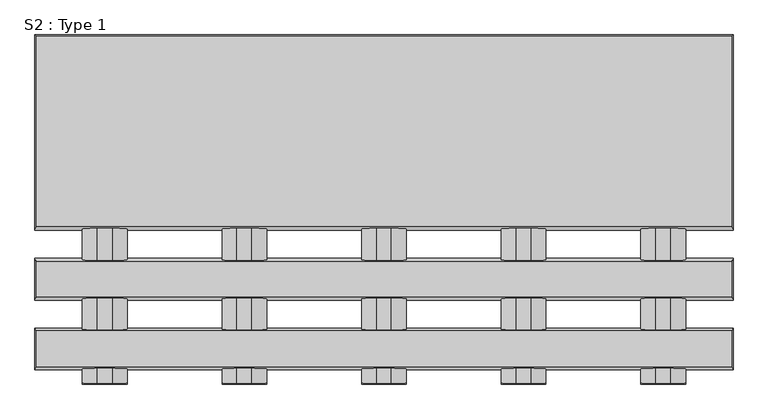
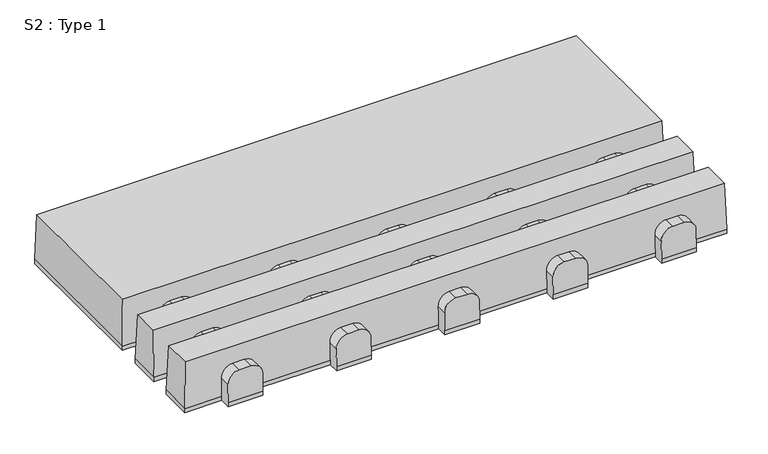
"""IFC4 building model written with IfcOpenShell, lengths in millimetres: proxy geometry, S2 : Type 1."""

from ifc_helpers import new_model, si_unit, frame, origin, place, context, project, spatial, ellipse_curve, source, transform, mapped, element, save
from ifc_brep_helpers import plane_surface, cylinder_surface, advanced_brep


def s2_type_1_b20050cd(model_context):
    return source(origin(), model_context, "Body", "AdvancedBrep", [
        advanced_brep(
        [(85.0, 0.0, 0.0), (165.0, 0.0, 0.0), (165.0, 0.0, 10.0), (85.0, 0.0, 10.0), (1250.0, 625.0, 0.0), (0.0, 625.0, 0.0), (0.0, 625.0, 10.0), (1250.0, 625.0, 10.0), (165.0, 25.25, 0.0), (165.0, 25.25, 10.0), (165.0, 27.1056048, 53.33), (165.0, 1.08325, 53.33), (165.0, 99.75, 10.0), (165.0, 99.75, 0.0), (165.0, 150.25, 0.0), (165.0, 150.25, 10.0), (165.0, 152.6134545, 53.33), (165.0, 97.8943952, 53.33), (165.0, 224.75, 10.0), (165.0, 224.75, 0.0), (165.0, 275.25, 0.0), (165.0, 275.25, 10.0), (165.0, 277.6134545, 53.33), (165.0, 222.3865455, 53.33), (111.67, 96.7522539, 80.0), (138.33, 96.7522539, 80.0), (138.33, 154.0681818, 80.0), (111.67, 154.0681818, 80.0), (138.33, 28.2477461, 80.0), (111.67, 28.2477461, 80.0), (111.67, 1.75, 80.0), (138.33, 1.75, 80.0), (111.67, 220.9318182, 80.0), (138.33, 220.9318182, 80.0), (138.33, 279.0681818, 80.0), (111.67, 279.0681818, 80.0), (85.0, 25.25, 0.0), (85.0, 1.08325, 53.33), (85.0, 27.1056048, 53.33), (85.0, 25.25, 10.0), (85.0, 99.75, 0.0), (85.0, 99.75, 10.0), (85.0, 97.8943952, 53.33), (85.0, 152.6134545, 53.33), (85.0, 150.25, 10.0), (85.0, 150.25, 0.0), (85.0, 224.75, 0.0), (85.0, 224.75, 10.0), (85.0, 222.3865455, 53.33), (85.0, 277.6134545, 53.33), (85.0, 275.25, 10.0), (85.0, 275.25, 0.0), (0.0, 25.25, 0.0), (0.0, 99.75, 0.0), (0.0, 150.25, 0.0), (0.0, 224.75, 0.0), (0.0, 275.25, 0.0), (1250.0, 275.25, 0.0), (1165.0, 275.25, 0.0), (1165.0, 224.75, 0.0), (1250.0, 224.75, 0.0), (1250.0, 150.25, 0.0), (1165.0, 150.25, 0.0), (1165.0, 99.75, 0.0), (1250.0, 99.75, 0.0), (1250.0, 25.25, 0.0), (1165.0, 25.25, 0.0), (1165.0, 0.0, 0.0), (1085.0, 0.0, 0.0), (1085.0, 25.25, 0.0), (915.0, 25.25, 0.0), (915.0, 0.0, 0.0), (835.0, 0.0, 0.0), (835.0, 25.25, 0.0), (665.0, 25.25, 0.0), (665.0, 0.0, 0.0), (585.0, 0.0, 0.0), (585.0, 25.25, 0.0), (415.0, 25.25, 0.0), (415.0, 0.0, 0.0), (335.0, 0.0, 0.0), (335.0, 25.25, 0.0), (335.0, 99.75, 0.0), (335.0, 150.25, 0.0), (335.0, 224.75, 0.0), (335.0, 275.25, 0.0), (415.0, 150.25, 0.0), (415.0, 99.75, 0.0), (585.0, 99.75, 0.0), (585.0, 150.25, 0.0), (415.0, 275.25, 0.0), (415.0, 224.75, 0.0), (585.0, 224.75, 0.0), (585.0, 275.25, 0.0), (665.0, 150.25, 0.0), (665.0, 99.75, 0.0), (835.0, 99.75, 0.0), (835.0, 150.25, 0.0), (665.0, 275.25, 0.0), (665.0, 224.75, 0.0), (835.0, 224.75, 0.0), (835.0, 275.25, 0.0), (915.0, 150.25, 0.0), (915.0, 99.75, 0.0), (1085.0, 99.75, 0.0), (1085.0, 150.25, 0.0), (915.0, 275.25, 0.0), (915.0, 224.75, 0.0), (1085.0, 224.75, 0.0), (1085.0, 275.25, 0.0), (1250.0, 99.75, 10.0), (1250.0, 25.25, 10.0), (0.0, 25.25, 10.0), (0.0, 99.75, 10.0), (335.0, 99.75, 10.0), (1165.0, 99.75, 10.0), (415.0, 99.75, 10.0), (585.0, 99.75, 10.0), (665.0, 99.75, 10.0), (835.0, 99.75, 10.0), (915.0, 99.75, 10.0), (1085.0, 99.75, 10.0), (2.75, 95.0392562, 120.0), (1247.25, 95.0392562, 120.0), (1165.0, 97.8943952, 53.33), (1138.33, 96.7522539, 80.0), (1111.67, 96.7522539, 80.0), (1085.0, 97.8943952, 53.33), (915.0, 97.8943952, 53.33), (888.33, 96.7522539, 80.0), (861.67, 96.7522539, 80.0), (835.0, 97.8943952, 53.33), (665.0, 97.8943952, 53.33), (638.33, 96.7522539, 80.0), (611.67, 96.7522539, 80.0), (585.0, 97.8943952, 53.33), (415.0, 97.8943952, 53.33), (388.33, 96.7522539, 80.0), (361.67, 96.7522539, 80.0), (335.0, 97.8943952, 53.33), (2.75, 29.9607438, 120.0), (1247.25, 29.9607438, 120.0), (335.0, 25.25, 10.0), (335.0, 27.1056048, 53.33), (361.67, 28.2477461, 80.0), (388.33, 28.2477461, 80.0), (415.0, 27.1056048, 53.33), (415.0, 25.25, 10.0), (585.0, 25.25, 10.0), (585.0, 27.1056048, 53.33), (611.67, 28.2477461, 80.0), (638.33, 28.2477461, 80.0), (665.0, 27.1056048, 53.33), (665.0, 25.25, 10.0), (835.0, 25.25, 10.0), (835.0, 27.1056048, 53.33), (861.67, 28.2477461, 80.0), (888.33, 28.2477461, 80.0), (915.0, 27.1056048, 53.33), (915.0, 25.25, 10.0), (1085.0, 25.25, 10.0), (1085.0, 27.1056048, 53.33), (1111.67, 28.2477461, 80.0), (1138.33, 28.2477461, 80.0), (1165.0, 27.1056048, 53.33), (1165.0, 25.25, 10.0), (1250.0, 224.75, 10.0), (1250.0, 150.25, 10.0), (0.0, 150.25, 10.0), (0.0, 224.75, 10.0), (335.0, 224.75, 10.0), (1165.0, 224.75, 10.0), (415.0, 224.75, 10.0), (585.0, 224.75, 10.0), (665.0, 224.75, 10.0), (835.0, 224.75, 10.0), (915.0, 224.75, 10.0), (1085.0, 224.75, 10.0), (2.75, 218.75, 120.0), (1247.25, 218.75, 120.0), (1165.0, 222.3865455, 53.33), (1138.33, 220.9318182, 80.0), (1111.67, 220.9318182, 80.0), (1085.0, 222.3865455, 53.33), (915.0, 222.3865455, 53.33), (888.33, 220.9318182, 80.0), (861.67, 220.9318182, 80.0), (835.0, 222.3865455, 53.33), (665.0, 222.3865455, 53.33), (638.33, 220.9318182, 80.0), (611.67, 220.9318182, 80.0), (585.0, 222.3865455, 53.33), (415.0, 222.3865455, 53.33), (388.33, 220.9318182, 80.0), (361.67, 220.9318182, 80.0), (335.0, 222.3865455, 53.33), (2.75, 156.25, 120.0), (1247.25, 156.25, 120.0), (335.0, 150.25, 10.0), (335.0, 152.6134545, 53.33), (361.67, 154.0681818, 80.0), (388.33, 154.0681818, 80.0), (415.0, 152.6134545, 53.33), (415.0, 150.25, 10.0), (585.0, 150.25, 10.0), (585.0, 152.6134545, 53.33), (611.67, 154.0681818, 80.0), (638.33, 154.0681818, 80.0), (665.0, 152.6134545, 53.33), (665.0, 150.25, 10.0), (835.0, 150.25, 10.0), (835.0, 152.6134545, 53.33), (861.67, 154.0681818, 80.0), (888.33, 154.0681818, 80.0), (915.0, 152.6134545, 53.33), (915.0, 150.25, 10.0), (1085.0, 150.25, 10.0), (1085.0, 152.6134545, 53.33), (1111.67, 154.0681818, 80.0), (1138.33, 154.0681818, 80.0), (1165.0, 152.6134545, 53.33), (1165.0, 150.25, 10.0), (1250.0, 275.25, 10.0), (0.0, 275.25, 10.0), (2.75, 281.25, 120.0), (1247.25, 281.25, 120.0), (1247.25, 622.25, 120.0), (2.75, 622.25, 120.0), (335.0, 275.25, 10.0), (335.0, 277.6134545, 53.33), (361.67, 279.0681818, 80.0), (388.33, 279.0681818, 80.0), (415.0, 277.6134545, 53.33), (415.0, 275.25, 10.0), (585.0, 275.25, 10.0), (585.0, 277.6134545, 53.33), (611.67, 279.0681818, 80.0), (638.33, 279.0681818, 80.0), (665.0, 277.6134545, 53.33), (665.0, 275.25, 10.0), (835.0, 275.25, 10.0), (835.0, 277.6134545, 53.33), (861.67, 279.0681818, 80.0), (888.33, 279.0681818, 80.0), (915.0, 277.6134545, 53.33), (915.0, 275.25, 10.0), (1085.0, 275.25, 10.0), (1085.0, 277.6134545, 53.33), (1111.67, 279.0681818, 80.0), (1138.33, 279.0681818, 80.0), (1165.0, 277.6134545, 53.33), (1165.0, 275.25, 10.0), (415.0, 0.0, 10.0), (335.0, 0.0, 10.0), (665.0, 0.0, 10.0), (585.0, 0.0, 10.0), (915.0, 0.0, 10.0), (835.0, 0.0, 10.0), (1165.0, 0.0, 10.0), (1085.0, 0.0, 10.0), (415.0, 1.08325, 53.33), (388.33, 1.75, 80.0), (361.67, 1.75, 80.0), (335.0, 1.08325, 53.33), (665.0, 1.08325, 53.33), (638.33, 1.75, 80.0), (611.67, 1.75, 80.0), (585.0, 1.08325, 53.33), (915.0, 1.08325, 53.33), (888.33, 1.75, 80.0), (861.67, 1.75, 80.0), (835.0, 1.08325, 53.33), (1165.0, 1.08325, 53.33), (1138.33, 1.75, 80.0), (1111.67, 1.75, 80.0), (1085.0, 1.08325, 53.33)],
        [
            (0, 1),
            (1, 2),
            (2, 3),
            (3, 0),
            (4, 5),
            (5, 6),
            (6, 7),
            (7, 4),
            (1, 8),
            (8, 9),
            (9, 10),
            (10, 11),
            (11, 2),
            (12, 13),
            (13, 14),
            (14, 15),
            (15, 16),
            (16, 17),
            (17, 12),
            (18, 19),
            (19, 20),
            (20, 21),
            (21, 22),
            (22, 23),
            (23, 18),
            (24, 25),
            (25, 26),
            (26, 27),
            (27, 24),
            (28, 29),
            (29, 30),
            (30, 31),
            (31, 28),
            (32, 33),
            (33, 34),
            (34, 35),
            (35, 32),
            (36, 0),
            (3, 37),
            (37, 38),
            (38, 39),
            (39, 36),
            (40, 41),
            (41, 42),
            (42, 43),
            (43, 44),
            (44, 45),
            (45, 40),
            (46, 47),
            (47, 48),
            (48, 49),
            (49, 50),
            (50, 51),
            (51, 46),
            (36, 52),
            (52, 53),
            (53, 40),
            (45, 54),
            (54, 55),
            (55, 46),
            (51, 56),
            (56, 5),
            (4, 57),
            (57, 58),
            (58, 59),
            (59, 60),
            (60, 61),
            (61, 62),
            (62, 63),
            (63, 64),
            (64, 65),
            (65, 66),
            (66, 67),
            (67, 68),
            (68, 69),
            (69, 70),
            (70, 71),
            (71, 72),
            (72, 73),
            (73, 74),
            (74, 75),
            (75, 76),
            (76, 77),
            (77, 78),
            (78, 79),
            (79, 80),
            (80, 81),
            (81, 8),
            (13, 82),
            (82, 83),
            (83, 14),
            (19, 84),
            (84, 85),
            (85, 20),
            (86, 87),
            (87, 88),
            (88, 89),
            (89, 86),
            (90, 91),
            (91, 92),
            (92, 93),
            (93, 90),
            (94, 95),
            (95, 96),
            (96, 97),
            (97, 94),
            (98, 99),
            (99, 100),
            (100, 101),
            (101, 98),
            (102, 103),
            (103, 104),
            (104, 105),
            (105, 102),
            (106, 107),
            (107, 108),
            (108, 109),
            (109, 106),
            (64, 110),
            (110, 111),
            (111, 65),
            (52, 112),
            (112, 113),
            (113, 53),
            (12, 114),
            (114, 82),
            (63, 115),
            (115, 110),
            (113, 41),
            (87, 116),
            (116, 117),
            (117, 88),
            (95, 118),
            (118, 119),
            (119, 96),
            (103, 120),
            (120, 121),
            (121, 104),
            (113, 122),
            (122, 123),
            (123, 110),
            (115, 124),
            (124, 125, ellipse_curve(frame((1138.33, 97.8943952, 53.33), z_axis=(0.0, -0.9990842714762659, -0.042785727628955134), x_axis=(0.0, -0.04278572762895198, 0.999084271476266)), 26.6944449, 26.67)),
            (125, 126),
            (126, 127, ellipse_curve(frame((1111.67, 97.8943952, 53.33), z_axis=(0.0, -0.9990842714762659, -0.042785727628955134), x_axis=(0.0, -0.04278572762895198, 0.999084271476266)), 26.6944449, 26.67)),
            (127, 121),
            (120, 128),
            (128, 129, ellipse_curve(frame((888.33, 97.8943952, 53.33), z_axis=(0.0, -0.9990842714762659, -0.042785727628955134), x_axis=(0.0, -0.04278572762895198, 0.999084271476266)), 26.6944449, 26.67)),
            (129, 130),
            (130, 131, ellipse_curve(frame((861.67, 97.8943952, 53.33), z_axis=(0.0, -0.9990842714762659, -0.042785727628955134), x_axis=(0.0, -0.04278572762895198, 0.999084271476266)), 26.6944449, 26.67)),
            (131, 119),
            (118, 132),
            (132, 133, ellipse_curve(frame((638.33, 97.8943952, 53.33), z_axis=(0.0, -0.9990842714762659, -0.042785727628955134), x_axis=(0.0, -0.04278572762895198, 0.999084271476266)), 26.6944449, 26.67)),
            (133, 134),
            (134, 135, ellipse_curve(frame((611.67, 97.8943952, 53.33), z_axis=(0.0, -0.9990842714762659, -0.042785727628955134), x_axis=(0.0, -0.04278572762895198, 0.999084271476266)), 26.6944449, 26.67)),
            (135, 117),
            (116, 136),
            (136, 137, ellipse_curve(frame((388.33, 97.8943952, 53.33), z_axis=(0.0, -0.9990842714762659, -0.042785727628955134), x_axis=(0.0, -0.04278572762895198, 0.999084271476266)), 26.6944449, 26.67)),
            (137, 138),
            (138, 139, ellipse_curve(frame((361.67, 97.8943952, 53.33), z_axis=(0.0, -0.9990842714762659, -0.042785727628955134), x_axis=(0.0, -0.04278572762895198, 0.999084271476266)), 26.6944449, 26.67)),
            (139, 114),
            (17, 25, ellipse_curve(frame((138.33, 97.8943952, 53.33), z_axis=(0.0, -0.9990842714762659, -0.042785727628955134), x_axis=(0.0, -0.04278572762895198, 0.999084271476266)), 26.6944449, 26.67)),
            (24, 42, ellipse_curve(frame((111.67, 97.8943952, 53.33), z_axis=(0.0, -0.9990842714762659, -0.042785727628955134), x_axis=(0.0, -0.04278572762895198, 0.999084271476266)), 26.6944449, 26.67)),
            (122, 140),
            (140, 141),
            (141, 123),
            (112, 39),
            (38, 29, ellipse_curve(frame((111.67, 27.1056048, 53.33), z_axis=(0.0, 0.9990842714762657, -0.042785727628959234), x_axis=(0.0, -0.042785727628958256, -0.9990842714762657)), 26.6944449, 26.67)),
            (28, 10, ellipse_curve(frame((138.33, 27.1056048, 53.33), z_axis=(0.0, 0.9990842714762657, -0.042785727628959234), x_axis=(0.0, -0.042785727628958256, -0.9990842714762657)), 26.6944449, 26.67)),
            (9, 142),
            (142, 143),
            (143, 144, ellipse_curve(frame((361.67, 27.1056048, 53.33), z_axis=(0.0, 0.9990842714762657, -0.042785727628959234), x_axis=(0.0, -0.042785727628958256, -0.9990842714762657)), 26.6944449, 26.67)),
            (144, 145),
            (145, 146, ellipse_curve(frame((388.33, 27.1056048, 53.33), z_axis=(0.0, 0.9990842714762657, -0.042785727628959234), x_axis=(0.0, -0.042785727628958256, -0.9990842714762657)), 26.6944449, 26.67)),
            (146, 147),
            (147, 148),
            (148, 149),
            (149, 150, ellipse_curve(frame((611.67, 27.1056048, 53.33), z_axis=(0.0, 0.9990842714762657, -0.042785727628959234), x_axis=(0.0, -0.042785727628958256, -0.9990842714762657)), 26.6944449, 26.67)),
            (150, 151),
            (151, 152, ellipse_curve(frame((638.33, 27.1056048, 53.33), z_axis=(0.0, 0.9990842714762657, -0.042785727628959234), x_axis=(0.0, -0.042785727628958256, -0.9990842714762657)), 26.6944449, 26.67)),
            (152, 153),
            (153, 154),
            (154, 155),
            (155, 156, ellipse_curve(frame((861.67, 27.1056048, 53.33), z_axis=(0.0, 0.9990842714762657, -0.042785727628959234), x_axis=(0.0, -0.042785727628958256, -0.9990842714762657)), 26.6944449, 26.67)),
            (156, 157),
            (157, 158, ellipse_curve(frame((888.33, 27.1056048, 53.33), z_axis=(0.0, 0.9990842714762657, -0.042785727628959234), x_axis=(0.0, -0.042785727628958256, -0.9990842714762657)), 26.6944449, 26.67)),
            (158, 159),
            (159, 160),
            (160, 161),
            (161, 162, ellipse_curve(frame((1111.67, 27.1056048, 53.33), z_axis=(0.0, 0.9990842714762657, -0.042785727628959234), x_axis=(0.0, -0.042785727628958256, -0.9990842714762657)), 26.6944449, 26.67)),
            (162, 163),
            (163, 164, ellipse_curve(frame((1138.33, 27.1056048, 53.33), z_axis=(0.0, 0.9990842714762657, -0.042785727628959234), x_axis=(0.0, -0.042785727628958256, -0.9990842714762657)), 26.6944449, 26.67)),
            (164, 165),
            (165, 111),
            (111, 141),
            (140, 112),
            (81, 142),
            (165, 66),
            (147, 78),
            (77, 148),
            (153, 74),
            (73, 154),
            (159, 70),
            (69, 160),
            (60, 166),
            (166, 167),
            (167, 61),
            (54, 168),
            (168, 169),
            (169, 55),
            (18, 170),
            (170, 84),
            (59, 171),
            (171, 166),
            (169, 47),
            (91, 172),
            (172, 173),
            (173, 92),
            (99, 174),
            (174, 175),
            (175, 100),
            (107, 176),
            (176, 177),
            (177, 108),
            (169, 178),
            (178, 179),
            (179, 166),
            (171, 180),
            (180, 181, ellipse_curve(frame((1138.33, 222.3865455, 53.33), z_axis=(0.0, -0.9985157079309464, -0.05446449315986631), x_axis=(0.0, -0.05446449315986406, 0.9985157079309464)), 26.7096449, 26.67)),
            (181, 182),
            (182, 183, ellipse_curve(frame((1111.67, 222.3865455, 53.33), z_axis=(0.0, -0.9985157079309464, -0.05446449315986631), x_axis=(0.0, -0.05446449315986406, 0.9985157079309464)), 26.7096449, 26.67)),
            (183, 177),
            (176, 184),
            (184, 185, ellipse_curve(frame((888.33, 222.3865455, 53.33), z_axis=(0.0, -0.9985157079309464, -0.05446449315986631), x_axis=(0.0, -0.05446449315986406, 0.9985157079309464)), 26.7096449, 26.67)),
            (185, 186),
            (186, 187, ellipse_curve(frame((861.67, 222.3865455, 53.33), z_axis=(0.0, -0.9985157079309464, -0.05446449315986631), x_axis=(0.0, -0.05446449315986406, 0.9985157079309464)), 26.7096449, 26.67)),
            (187, 175),
            (174, 188),
            (188, 189, ellipse_curve(frame((638.33, 222.3865455, 53.33), z_axis=(0.0, -0.9985157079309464, -0.05446449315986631), x_axis=(0.0, -0.05446449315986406, 0.9985157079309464)), 26.7096449, 26.67)),
            (189, 190),
            (190, 191, ellipse_curve(frame((611.67, 222.3865455, 53.33), z_axis=(0.0, -0.9985157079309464, -0.05446449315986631), x_axis=(0.0, -0.05446449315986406, 0.9985157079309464)), 26.7096449, 26.67)),
            (191, 173),
            (172, 192),
            (192, 193, ellipse_curve(frame((388.33, 222.3865455, 53.33), z_axis=(0.0, -0.9985157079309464, -0.05446449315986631), x_axis=(0.0, -0.05446449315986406, 0.9985157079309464)), 26.7096449, 26.67)),
            (193, 194),
            (194, 195, ellipse_curve(frame((361.67, 222.3865455, 53.33), z_axis=(0.0, -0.9985157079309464, -0.05446449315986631), x_axis=(0.0, -0.05446449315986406, 0.9985157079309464)), 26.7096449, 26.67)),
            (195, 170),
            (23, 33, ellipse_curve(frame((138.33, 222.3865455, 53.33), z_axis=(0.0, -0.9985157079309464, -0.05446449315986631), x_axis=(0.0, -0.05446449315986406, 0.9985157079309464)), 26.7096449, 26.67)),
            (32, 48, ellipse_curve(frame((111.67, 222.3865455, 53.33), z_axis=(0.0, -0.9985157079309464, -0.05446449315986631), x_axis=(0.0, -0.05446449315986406, 0.9985157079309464)), 26.7096449, 26.67)),
            (178, 196),
            (196, 197),
            (197, 179),
            (168, 44),
            (43, 27, ellipse_curve(frame((111.67, 152.6134545, 53.33), z_axis=(0.0, 0.998515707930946, -0.05446449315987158), x_axis=(0.0, -0.05446449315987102, -0.9985157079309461)), 26.7096449, 26.67)),
            (26, 16, ellipse_curve(frame((138.33, 152.6134545, 53.33), z_axis=(0.0, 0.998515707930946, -0.05446449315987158), x_axis=(0.0, -0.05446449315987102, -0.9985157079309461)), 26.7096449, 26.67)),
            (15, 198),
            (198, 199),
            (199, 200, ellipse_curve(frame((361.67, 152.6134545, 53.33), z_axis=(0.0, 0.998515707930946, -0.05446449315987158), x_axis=(0.0, -0.05446449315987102, -0.9985157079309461)), 26.7096449, 26.67)),
            (200, 201),
            (201, 202, ellipse_curve(frame((388.33, 152.6134545, 53.33), z_axis=(0.0, 0.998515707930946, -0.05446449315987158), x_axis=(0.0, -0.05446449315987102, -0.9985157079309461)), 26.7096449, 26.67)),
            (202, 203),
            (203, 204),
            (204, 205),
            (205, 206, ellipse_curve(frame((611.67, 152.6134545, 53.33), z_axis=(0.0, 0.998515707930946, -0.05446449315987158), x_axis=(0.0, -0.05446449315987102, -0.9985157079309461)), 26.7096449, 26.67)),
            (206, 207),
            (207, 208, ellipse_curve(frame((638.33, 152.6134545, 53.33), z_axis=(0.0, 0.998515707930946, -0.05446449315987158), x_axis=(0.0, -0.05446449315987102, -0.9985157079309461)), 26.7096449, 26.67)),
            (208, 209),
            (209, 210),
            (210, 211),
            (211, 212, ellipse_curve(frame((861.67, 152.6134545, 53.33), z_axis=(0.0, 0.998515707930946, -0.05446449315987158), x_axis=(0.0, -0.05446449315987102, -0.9985157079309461)), 26.7096449, 26.67)),
            (212, 213),
            (213, 214, ellipse_curve(frame((888.33, 152.6134545, 53.33), z_axis=(0.0, 0.998515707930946, -0.05446449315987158), x_axis=(0.0, -0.05446449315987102, -0.9985157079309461)), 26.7096449, 26.67)),
            (214, 215),
            (215, 216),
            (216, 217),
            (217, 218, ellipse_curve(frame((1111.67, 152.6134545, 53.33), z_axis=(0.0, 0.998515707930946, -0.05446449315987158), x_axis=(0.0, -0.05446449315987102, -0.9985157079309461)), 26.7096449, 26.67)),
            (218, 219),
            (219, 220, ellipse_curve(frame((1138.33, 152.6134545, 53.33), z_axis=(0.0, 0.998515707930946, -0.05446449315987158), x_axis=(0.0, -0.05446449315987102, -0.9985157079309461)), 26.7096449, 26.67)),
            (220, 221),
            (221, 167),
            (167, 197),
            (196, 168),
            (83, 198),
            (221, 62),
            (203, 86),
            (89, 204),
            (209, 94),
            (97, 210),
            (215, 102),
            (105, 216),
            (222, 57),
            (7, 222),
            (56, 223),
            (223, 6),
            (224, 225),
            (225, 226),
            (226, 227),
            (227, 224),
            (223, 50),
            (49, 35, ellipse_curve(frame((111.67, 277.6134545, 53.33), z_axis=(0.0, 0.998515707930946, -0.05446449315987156), x_axis=(0.0, -0.054464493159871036, -0.998515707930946)), 26.7096449, 26.67)),
            (34, 22, ellipse_curve(frame((138.33, 277.6134545, 53.33), z_axis=(0.0, 0.998515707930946, -0.05446449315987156), x_axis=(0.0, -0.054464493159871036, -0.998515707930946)), 26.7096449, 26.67)),
            (21, 228),
            (228, 229),
            (229, 230, ellipse_curve(frame((361.67, 277.6134545, 53.33), z_axis=(0.0, 0.998515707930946, -0.05446449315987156), x_axis=(0.0, -0.054464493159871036, -0.998515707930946)), 26.7096449, 26.67)),
            (230, 231),
            (231, 232, ellipse_curve(frame((388.33, 277.6134545, 53.33), z_axis=(0.0, 0.998515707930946, -0.05446449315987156), x_axis=(0.0, -0.054464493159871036, -0.998515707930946)), 26.7096449, 26.67)),
            (232, 233),
            (233, 234),
            (234, 235),
            (235, 236, ellipse_curve(frame((611.67, 277.6134545, 53.33), z_axis=(0.0, 0.998515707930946, -0.05446449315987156), x_axis=(0.0, -0.054464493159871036, -0.998515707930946)), 26.7096449, 26.67)),
            (236, 237),
            (237, 238, ellipse_curve(frame((638.33, 277.6134545, 53.33), z_axis=(0.0, 0.998515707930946, -0.05446449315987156), x_axis=(0.0, -0.054464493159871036, -0.998515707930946)), 26.7096449, 26.67)),
            (238, 239),
            (239, 240),
            (240, 241),
            (241, 242, ellipse_curve(frame((861.67, 277.6134545, 53.33), z_axis=(0.0, 0.998515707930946, -0.05446449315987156), x_axis=(0.0, -0.054464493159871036, -0.998515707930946)), 26.7096449, 26.67)),
            (242, 243),
            (243, 244, ellipse_curve(frame((888.33, 277.6134545, 53.33), z_axis=(0.0, 0.998515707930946, -0.05446449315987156), x_axis=(0.0, -0.054464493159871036, -0.998515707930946)), 26.7096449, 26.67)),
            (244, 245),
            (245, 246),
            (246, 247),
            (247, 248, ellipse_curve(frame((1111.67, 277.6134545, 53.33), z_axis=(0.0, 0.998515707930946, -0.05446449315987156), x_axis=(0.0, -0.054464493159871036, -0.998515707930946)), 26.7096449, 26.67)),
            (248, 249),
            (249, 250, ellipse_curve(frame((1138.33, 277.6134545, 53.33), z_axis=(0.0, 0.998515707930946, -0.05446449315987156), x_axis=(0.0, -0.054464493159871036, -0.998515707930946)), 26.7096449, 26.67)),
            (250, 251),
            (251, 222),
            (222, 225),
            (224, 223),
            (85, 228),
            (251, 58),
            (233, 90),
            (93, 234),
            (239, 98),
            (101, 240),
            (245, 106),
            (109, 246),
            (79, 252),
            (252, 253),
            (253, 80),
            (75, 254),
            (254, 255),
            (255, 76),
            (71, 256),
            (256, 257),
            (257, 72),
            (67, 258),
            (258, 259),
            (259, 68),
            (31, 11, ellipse_curve(frame((138.33, 1.08325, 53.33), z_axis=(0.0, 0.9996876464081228, -0.02499219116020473), x_axis=(0.0, -0.02499219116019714, -0.9996876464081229)), 26.6783331, 26.67)),
            (37, 30, ellipse_curve(frame((111.67, 1.08325, 53.33), z_axis=(0.0, 0.9996876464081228, -0.02499219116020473), x_axis=(0.0, -0.02499219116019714, -0.9996876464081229)), 26.6783331, 26.67)),
            (146, 260),
            (260, 252),
            (202, 136),
            (232, 192),
            (145, 261),
            (261, 260, ellipse_curve(frame((388.33, 1.08325, 53.33), z_axis=(0.0, 0.9996876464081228, -0.02499219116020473), x_axis=(0.0, -0.02499219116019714, -0.9996876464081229)), 26.6783331, 26.67)),
            (201, 137),
            (231, 193),
            (144, 262),
            (262, 261),
            (200, 138),
            (230, 194),
            (143, 263),
            (263, 262, ellipse_curve(frame((361.67, 1.08325, 53.33), z_axis=(0.0, 0.9996876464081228, -0.02499219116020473), x_axis=(0.0, -0.02499219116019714, -0.9996876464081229)), 26.6783331, 26.67)),
            (199, 139),
            (229, 195),
            (253, 263),
            (152, 264),
            (264, 254),
            (208, 132),
            (238, 188),
            (151, 265),
            (265, 264, ellipse_curve(frame((638.33, 1.08325, 53.33), z_axis=(0.0, 0.9996876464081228, -0.02499219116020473), x_axis=(0.0, -0.02499219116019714, -0.9996876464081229)), 26.6783331, 26.67)),
            (207, 133),
            (237, 189),
            (150, 266),
            (266, 265),
            (206, 134),
            (236, 190),
            (149, 267),
            (267, 266, ellipse_curve(frame((611.67, 1.08325, 53.33), z_axis=(0.0, 0.9996876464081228, -0.02499219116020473), x_axis=(0.0, -0.02499219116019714, -0.9996876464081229)), 26.6783331, 26.67)),
            (205, 135),
            (235, 191),
            (255, 267),
            (158, 268),
            (268, 256),
            (214, 128),
            (244, 184),
            (157, 269),
            (269, 268, ellipse_curve(frame((888.33, 1.08325, 53.33), z_axis=(0.0, 0.9996876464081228, -0.02499219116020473), x_axis=(0.0, -0.02499219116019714, -0.9996876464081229)), 26.6783331, 26.67)),
            (213, 129),
            (243, 185),
            (156, 270),
            (270, 269),
            (212, 130),
            (242, 186),
            (155, 271),
            (271, 270, ellipse_curve(frame((861.67, 1.08325, 53.33), z_axis=(0.0, 0.9996876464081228, -0.02499219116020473), x_axis=(0.0, -0.02499219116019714, -0.9996876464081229)), 26.6783331, 26.67)),
            (211, 131),
            (241, 187),
            (257, 271),
            (250, 180),
            (220, 124),
            (164, 272),
            (272, 258),
            (163, 273),
            (273, 272, ellipse_curve(frame((1138.33, 1.08325, 53.33), z_axis=(0.0, 0.9996876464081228, -0.02499219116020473), x_axis=(0.0, -0.02499219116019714, -0.9996876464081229)), 26.6783331, 26.67)),
            (219, 125),
            (249, 181),
            (162, 274),
            (274, 273),
            (218, 126),
            (248, 182),
            (161, 275),
            (275, 274, ellipse_curve(frame((1111.67, 1.08325, 53.33), z_axis=(0.0, 0.9996876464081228, -0.02499219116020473), x_axis=(0.0, -0.02499219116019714, -0.9996876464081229)), 26.6783331, 26.67)),
            (217, 127),
            (247, 183),
            (259, 275),
            (7, 226),
            (227, 6),
        ],
        [
            plane_surface(frame((165.0, 0.0, 0.0), z_axis=(0.0, -1.0, 0.0), x_axis=(0.0, 0.0, 1.0))),
            plane_surface(frame((165.0, 625.0, 0.0), z_axis=(0.0, 1.0, 0.0), x_axis=(0.0, 0.0, -1.0))),
            plane_surface(frame((165.0, 0.0, 0.0), z_axis=(1.0, 0.0, 0.0), x_axis=(0.0, 1.0, 0.0))),
            plane_surface(frame((138.33, 0.0, 80.0), z_axis=(0.0, 0.0, 1.0), x_axis=(0.0, 1.0, 0.0))),
            plane_surface(frame((85.0, 0.0, 53.33), z_axis=(-1.0, 0.0, 0.0), x_axis=(0.0, 1.0, 0.0))),
            plane_surface(frame((85.0, 0.0, 0.0), z_axis=(0.0, 0.0, -1.0), x_axis=(0.0, 1.0, 0.0))),
            plane_surface(frame((1250.0, 99.75, 0.0), z_axis=(1.0, 0.0, 0.0), x_axis=(0.0, 0.0, 1.0))),
            plane_surface(frame((0.0, 99.75, 0.0), z_axis=(-1.0, 0.0, 0.0), x_axis=(0.0, 0.0, -1.0))),
            plane_surface(frame((1250.0, 99.75, 0.0), z_axis=(0.0, 1.0, 0.0), x_axis=(-1.0, 0.0, 0.0))),
            plane_surface(frame((1250.0, 99.75, 10.0), z_axis=(0.0, 0.9990842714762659, 0.042785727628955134), x_axis=(-1.0, 0.0, 0.0))),
            plane_surface(frame((1250.0, 95.0392562, 120.0), z_axis=(0.0, 0.0, 1.0), x_axis=(-1.0, 0.0, 0.0))),
            plane_surface(frame((1250.0, 29.9607438, 120.0), z_axis=(0.0, -0.9990842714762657, 0.042785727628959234), x_axis=(-1.0, 0.0, 0.0))),
            plane_surface(frame((1250.0, 25.25, 10.0), z_axis=(0.0, -1.0, 0.0), x_axis=(-1.0, 0.0, 0.0))),
            plane_surface(frame((1250.0, 224.75, 0.0), z_axis=(1.0, 0.0, 0.0), x_axis=(0.0, 0.0, 1.0))),
            plane_surface(frame((0.0, 224.75, 0.0), z_axis=(-1.0, 0.0, 0.0), x_axis=(0.0, 0.0, -1.0))),
            plane_surface(frame((1250.0, 224.75, 0.0), z_axis=(0.0, 1.0, 0.0), x_axis=(-1.0, 0.0, 0.0))),
            plane_surface(frame((1250.0, 224.75, 10.0), z_axis=(0.0, 0.9985157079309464, 0.05446449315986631), x_axis=(-1.0, 0.0, 0.0))),
            plane_surface(frame((1250.0, 218.75, 120.0), z_axis=(0.0, 0.0, 1.0), x_axis=(-1.0, 0.0, 0.0))),
            plane_surface(frame((1250.0, 156.25, 120.0), z_axis=(0.0, -0.998515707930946, 0.05446449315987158), x_axis=(-1.0, 0.0, 0.0))),
            plane_surface(frame((1250.0, 150.25, 10.0), z_axis=(0.0, -1.0, 0.0), x_axis=(-1.0, 0.0, 0.0))),
            plane_surface(frame((1250.0, 625.0, -304.8), z_axis=(1.0, 0.0, 0.0), x_axis=(0.0, 0.0, 1.0))),
            plane_surface(frame((0.0, 625.0, -304.8), z_axis=(-1.0, 0.0, 0.0), x_axis=(0.0, 0.0, -1.0))),
            plane_surface(frame((1250.0, 625.0, 120.0), z_axis=(0.0, 0.0, 1.0), x_axis=(-1.0, 0.0, 0.0))),
            plane_surface(frame((1250.0, 281.25, 120.0), z_axis=(0.0, -0.998515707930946, 0.05446449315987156), x_axis=(-1.0, 0.0, 0.0))),
            plane_surface(frame((1250.0, 275.25, 10.0), z_axis=(0.0, -1.0, 0.0), x_axis=(-1.0, 0.0, 0.0))),
            plane_surface(frame((415.0, 0.0, 0.0), z_axis=(0.0, -1.0, 0.0), x_axis=(0.0, 0.0, 1.0))),
            plane_surface(frame((665.0, 0.0, 0.0), z_axis=(0.0, -1.0, 0.0), x_axis=(0.0, 0.0, 1.0))),
            plane_surface(frame((915.0, 0.0, 0.0), z_axis=(0.0, -1.0, 0.0), x_axis=(0.0, 0.0, 1.0))),
            plane_surface(frame((1165.0, 0.0, 0.0), z_axis=(0.0, -1.0, 0.0), x_axis=(0.0, 0.0, 1.0))),
            cylinder_surface(frame((138.33, 625.0, 53.33), z_axis=(0.0, -1.0, 0.0), x_axis=(1.0, 0.0, 0.0)), 26.67),
            cylinder_surface(frame((111.67, 625.0, 53.33), z_axis=(0.0, -1.0, 0.0), x_axis=(1.0, 0.0, 0.0)), 26.67),
            plane_surface(frame((415.0, 0.0, 0.0), z_axis=(1.0, 0.0, 0.0), x_axis=(0.0, 1.0, 0.0))),
            cylinder_surface(frame((388.33, 625.0, 53.33), z_axis=(0.0, -1.0, 0.0), x_axis=(1.0, 0.0, 0.0)), 26.67),
            plane_surface(frame((388.33, 0.0, 80.0), z_axis=(0.0, 0.0, 1.0), x_axis=(0.0, 1.0, 0.0))),
            cylinder_surface(frame((361.67, 625.0, 53.33), z_axis=(0.0, -1.0, 0.0), x_axis=(1.0, 0.0, 0.0)), 26.67),
            plane_surface(frame((335.0, 0.0, 53.33), z_axis=(-1.0, 0.0, 0.0), x_axis=(0.0, 1.0, 0.0))),
            plane_surface(frame((665.0, 0.0, 0.0), z_axis=(1.0, 0.0, 0.0), x_axis=(0.0, 1.0, 0.0))),
            cylinder_surface(frame((638.33, 625.0, 53.33), z_axis=(0.0, -1.0, 0.0), x_axis=(1.0, 0.0, 0.0)), 26.67),
            plane_surface(frame((638.33, 0.0, 80.0), z_axis=(0.0, 0.0, 1.0), x_axis=(0.0, 1.0, 0.0))),
            cylinder_surface(frame((611.67, 625.0, 53.33), z_axis=(0.0, -1.0, 0.0), x_axis=(1.0, 0.0, 0.0)), 26.67),
            plane_surface(frame((585.0, 0.0, 53.33), z_axis=(-1.0, 0.0, 0.0), x_axis=(0.0, 1.0, 0.0))),
            plane_surface(frame((915.0, 0.0, 0.0), z_axis=(1.0, 0.0, 0.0), x_axis=(0.0, 1.0, 0.0))),
            cylinder_surface(frame((888.33, 625.0, 53.33), z_axis=(0.0, -1.0, 0.0), x_axis=(1.0, 0.0, 0.0)), 26.67),
            plane_surface(frame((888.33, 0.0, 80.0), z_axis=(0.0, 0.0, 1.0), x_axis=(0.0, 1.0, 0.0))),
            cylinder_surface(frame((861.67, 625.0, 53.33), z_axis=(0.0, -1.0, 0.0), x_axis=(1.0, 0.0, 0.0)), 26.67),
            plane_surface(frame((835.0, 0.0, 53.33), z_axis=(-1.0, 0.0, 0.0), x_axis=(0.0, 1.0, 0.0))),
            plane_surface(frame((1165.0, 0.0, 0.0), z_axis=(1.0, 0.0, 0.0), x_axis=(0.0, 1.0, 0.0))),
            cylinder_surface(frame((1138.33, 625.0, 53.33), z_axis=(0.0, -1.0, 0.0), x_axis=(1.0, 0.0, 0.0)), 26.67),
            plane_surface(frame((1138.33, 0.0, 80.0), z_axis=(0.0, 0.0, 1.0), x_axis=(0.0, 1.0, 0.0))),
            cylinder_surface(frame((1111.67, 625.0, 53.33), z_axis=(0.0, -1.0, 0.0), x_axis=(1.0, 0.0, 0.0)), 26.67),
            plane_surface(frame((1085.0, 0.0, 53.33), z_axis=(-1.0, 0.0, 0.0), x_axis=(0.0, 1.0, 0.0))),
            plane_surface(frame((1247.25, 0.0, 120.0), z_axis=(0.9996876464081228, 0.0, 0.02499219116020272), x_axis=(0.0, 1.0, 0.0))),
            plane_surface(frame((0.0, 0.0, 10.0), z_axis=(-0.9996876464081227, 0.0, 0.024992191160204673), x_axis=(0.0, 1.0, 0.0))),
            plane_surface(frame((1250.0, 622.25, 120.0), z_axis=(0.0, 0.9996876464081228, 0.02499219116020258), x_axis=(-1.0, 0.0, 0.0))),
            plane_surface(frame((1250.0, 0.0, 10.0), z_axis=(0.0, -0.9996876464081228, 0.02499219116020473), x_axis=(-1.0, 0.0, 0.0))),
        ],
        [
            (0, [[1, 2, 3, 4]]),
            (1, [[5, 6, 7, 8]]),
            (2, [[9, 10, 11, 12, 13, -2]]),
            (2, [[14, 15, 16, 17, 18, 19]]),
            (2, [[20, 21, 22, 23, 24, 25]]),
            (3, [[26, 27, 28, 29]]),
            (3, [[30, 31, 32, 33]]),
            (3, [[34, 35, 36, 37]]),
            (4, [[38, -4, 39, 40, 41, 42]]),
            (4, [[43, 44, 45, 46, 47, 48]]),
            (4, [[49, 50, 51, 52, 53, 54]]),
            (5, [[-1, -38, 55, 56, 57, -48, 58, 59, 60, -54, 61, 62, -5, 63, 64, 65, 66, 67, 68, 69, 70, 71, 72, 73, 74, 75, 76, 77, 78, 79, 80, 81, 82, 83, 84, 85, 86, 87, 88, -9], [-15, 89, 90, 91], [-21, 92, 93, 94], [95, 96, 97, 98], [99, 100, 101, 102], [103, 104, 105, 106], [107, 108, 109, 110], [111, 112, 113, 114], [115, 116, 117, 118]]),
            (6, [[119, 120, 121, -71]]),
            (7, [[-56, 122, 123, 124]]),
            (8, [[-14, 125, 126, -89]]),
            (8, [[-119, -70, 127, 128]]),
            (8, [[-124, 129, -43, -57]]),
            (8, [[130, 131, 132, -96]]),
            (8, [[133, 134, 135, -104]]),
            (8, [[136, 137, 138, -112]]),
            (9, [[-129, 139, 140, 141, -128, 142, 143, 144, 145, 146, -137, 147, 148, 149, 150, 151, -134, 152, 153, 154, 155, 156, -131, 157, 158, 159, 160, 161, -125, -19, 162, -26, 163, -44]]),
            (10, [[-140, 164, 165, 166]]),
            (11, [[167, -41, 168, -30, 169, -11, 170, 171, 172, 173, 174, 175, 176, 177, 178, 179, 180, 181, 182, 183, 184, 185, 186, 187, 188, 189, 190, 191, 192, 193, 194, 195, -165, 196]]),
            (12, [[-10, -88, 197, -170]]),
            (12, [[-121, -194, 198, -72]]),
            (12, [[-122, -55, -42, -167]]),
            (12, [[199, -84, 200, -176]]),
            (12, [[201, -80, 202, -182]]),
            (12, [[203, -76, 204, -188]]),
            (13, [[205, 206, 207, -67]]),
            (14, [[-59, 208, 209, 210]]),
            (15, [[-20, 211, 212, -92]]),
            (15, [[-205, -66, 213, 214]]),
            (15, [[-210, 215, -49, -60]]),
            (15, [[216, 217, 218, -100]]),
            (15, [[219, 220, 221, -108]]),
            (15, [[222, 223, 224, -116]]),
            (16, [[-215, 225, 226, 227, -214, 228, 229, 230, 231, 232, -223, 233, 234, 235, 236, 237, -220, 238, 239, 240, 241, 242, -217, 243, 244, 245, 246, 247, -211, -25, 248, -34, 249, -50]]),
            (17, [[-226, 250, 251, 252]]),
            (18, [[253, -46, 254, -28, 255, -17, 256, 257, 258, 259, 260, 261, 262, 263, 264, 265, 266, 267, 268, 269, 270, 271, 272, 273, 274, 275, 276, 277, 278, 279, 280, 281, -251, 282]]),
            (19, [[-16, -91, 283, -256]]),
            (19, [[-207, -280, 284, -68]]),
            (19, [[-208, -58, -47, -253]]),
            (19, [[285, -98, 286, -262]]),
            (19, [[287, -106, 288, -268]]),
            (19, [[289, -114, 290, -274]]),
            (20, [[291, -63, -8, 292]]),
            (21, [[-62, 293, 294, -6]]),
            (22, [[295, 296, 297, 298]]),
            (23, [[299, -52, 300, -36, 301, -23, 302, 303, 304, 305, 306, 307, 308, 309, 310, 311, 312, 313, 314, 315, 316, 317, 318, 319, 320, 321, 322, 323, 324, 325, 326, 327, -295, 328]]),
            (24, [[-22, -94, 329, -302]]),
            (24, [[-291, -326, 330, -64]]),
            (24, [[-293, -61, -53, -299]]),
            (24, [[331, -102, 332, -308]]),
            (24, [[333, -110, 334, -314]]),
            (24, [[335, -118, 336, -320]]),
            (25, [[-86, 337, 338, 339]]),
            (26, [[-82, 340, 341, 342]]),
            (27, [[-78, 343, 344, 345]]),
            (28, [[-74, 346, 347, 348]]),
            (29, [[-162, -18, -255, -27]]),
            (29, [[-169, -33, 349, -12]]),
            (29, [[-248, -24, -301, -35]]),
            (30, [[-163, -29, -254, -45]]),
            (30, [[-168, -40, 350, -31]]),
            (30, [[-249, -37, -300, -51]]),
            (31, [[-85, -199, -175, 351, 352, -337]]),
            (31, [[-95, -285, -261, 353, -157, -130]]),
            (31, [[-99, -331, -307, 354, -243, -216]]),
            (32, [[-174, 355, 356, -351]]),
            (32, [[-353, -260, 357, -158]]),
            (32, [[-354, -306, 358, -244]]),
            (33, [[-173, 359, 360, -355]]),
            (33, [[-357, -259, 361, -159]]),
            (33, [[-358, -305, 362, -245]]),
            (34, [[-172, 363, 364, -359]]),
            (34, [[-361, -258, 365, -160]]),
            (34, [[-362, -304, 366, -246]]),
            (35, [[-87, -339, 367, -363, -171, -197]]),
            (35, [[-90, -126, -161, -365, -257, -283]]),
            (35, [[-93, -212, -247, -366, -303, -329]]),
            (36, [[-81, -201, -181, 368, 369, -340]]),
            (36, [[-103, -287, -267, 370, -152, -133]]),
            (36, [[-107, -333, -313, 371, -238, -219]]),
            (37, [[-180, 372, 373, -368]]),
            (37, [[-370, -266, 374, -153]]),
            (37, [[-371, -312, 375, -239]]),
            (38, [[-179, 376, 377, -372]]),
            (38, [[-374, -265, 378, -154]]),
            (38, [[-375, -311, 379, -240]]),
            (39, [[-178, 380, 381, -376]]),
            (39, [[-378, -264, 382, -155]]),
            (39, [[-379, -310, 383, -241]]),
            (40, [[-83, -342, 384, -380, -177, -200]]),
            (40, [[-97, -132, -156, -382, -263, -286]]),
            (40, [[-101, -218, -242, -383, -309, -332]]),
            (41, [[-77, -203, -187, 385, 386, -343]]),
            (41, [[-111, -289, -273, 387, -147, -136]]),
            (41, [[-115, -335, -319, 388, -233, -222]]),
            (42, [[-186, 389, 390, -385]]),
            (42, [[-387, -272, 391, -148]]),
            (42, [[-388, -318, 392, -234]]),
            (43, [[-185, 393, 394, -389]]),
            (43, [[-391, -271, 395, -149]]),
            (43, [[-392, -317, 396, -235]]),
            (44, [[-184, 397, 398, -393]]),
            (44, [[-395, -270, 399, -150]]),
            (44, [[-396, -316, 400, -236]]),
            (45, [[-79, -345, 401, -397, -183, -202]]),
            (45, [[-105, -135, -151, -399, -269, -288]]),
            (45, [[-109, -221, -237, -400, -315, -334]]),
            (46, [[-65, -330, -325, 402, -228, -213]]),
            (46, [[-69, -284, -279, 403, -142, -127]]),
            (46, [[-73, -198, -193, 404, 405, -346]]),
            (47, [[-192, 406, 407, -404]]),
            (47, [[-403, -278, 408, -143]]),
            (47, [[-402, -324, 409, -229]]),
            (48, [[-191, 410, 411, -406]]),
            (48, [[-408, -277, 412, -144]]),
            (48, [[-409, -323, 413, -230]]),
            (49, [[-190, 414, 415, -410]]),
            (49, [[-412, -276, 416, -145]]),
            (49, [[-413, -322, 417, -231]]),
            (50, [[-75, -348, 418, -414, -189, -204]]),
            (50, [[-113, -138, -146, -416, -275, -290]]),
            (50, [[-117, -224, -232, -417, -321, -336]]),
            (51, [[-120, -141, -166, -195]]),
            (51, [[-206, -227, -252, -281]]),
            (51, [[-292, 419, -296, -327]]),
            (52, [[-123, -196, -164, -139]]),
            (52, [[-209, -282, -250, -225]]),
            (52, [[-294, -328, -298, 420]]),
            (53, [[-7, -420, -297, -419]]),
            (54, [[-3, -13, -349, -32, -350, -39]]),
            (54, [[-338, -352, -356, -360, -364, -367]]),
            (54, [[-341, -369, -373, -377, -381, -384]]),
            (54, [[-344, -386, -390, -394, -398, -401]]),
            (54, [[-347, -405, -407, -411, -415, -418]]),
        ],
    ),
    ])


if __name__ == "__main__":
    model = new_model("IFC4")
    model_context = context("Model", 3, world=origin())
    ifc_project = project(units=[si_unit("LENGTHUNIT", "METRE", prefix="MILLI")], contexts=[model_context])
    site = spatial("IfcSite", under=ifc_project)
    building = spatial("IfcBuilding", under=site)
    placement = place(None, origin())
    s2_type_1_shape = s2_type_1_b20050cd(model_context)
    element("IfcBuildingElementProxy", 1, Name="S2 : Type 1", ObjectType="S2 : Type 1", at=placement, inside=building, context=model_context, shape_type="MappedRepresentation", body=[
        mapped(s2_type_1_shape, transform((0.0, 0.0, 0.0), x_axis=(1.0, 0.0, 0.0), y_axis=(0.0, 1.0, 0.0), z_axis=(0.0, 0.0, 1.0))),
    ])
    save(model, "model.ifc")
